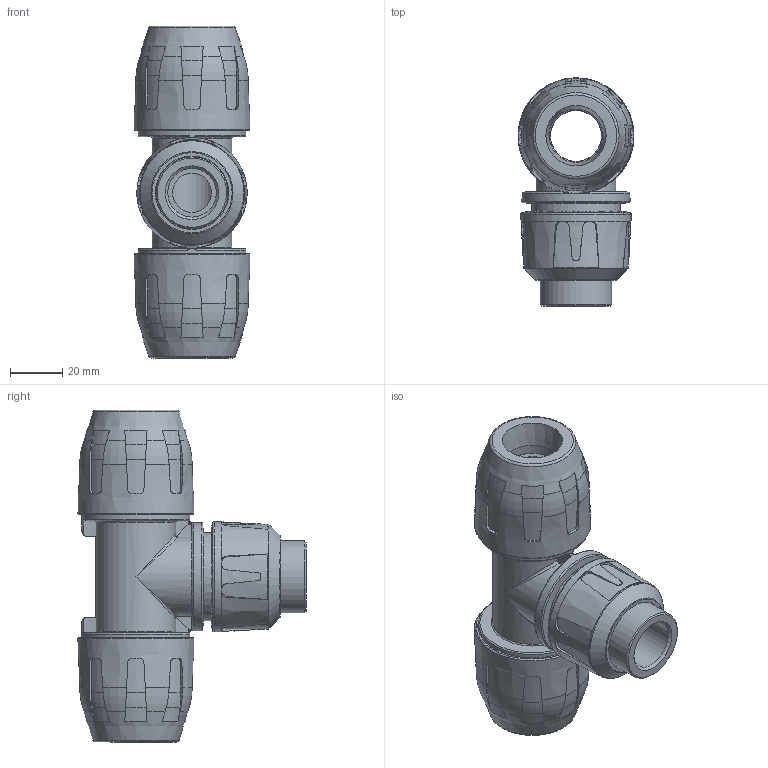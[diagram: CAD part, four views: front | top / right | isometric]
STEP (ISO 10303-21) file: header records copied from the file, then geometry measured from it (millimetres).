
FILE_DESCRIPTION( ( 'STEP AP214' ), '1' );
FILE_NAME( ' ', ' ', ( ' ' ), ( ' ' ), 'PSStep 11.0', 'VISI 17.0', ' ' );
FILE_SCHEMA( ( 'AUTOMOTIVE_DESIGN { 1 0 10303 214 1 1 1 1 }' ) );
Length unit declared in the file: millimetre
Products named in the file (5): 1; 2; 3; 4; 5
Bounding box: 44.44 x 87.4 x 127.2 mm (x, y, z)
Volume: 142667.3 mm3; surface area: 69559.2 mm2
Topology: 5 solids, 5 shells, 756 faces, 2036 edges, 1311 vertices
Faces by surface type: plane 350, cone 159, cylinder 122, bspline 94, torus 31
Full cylindrical faces by diameter (mm): 15 x1, 16 x1, 16.5 x1, 18.6 x1, 19.518 x1, 20 x1, 20.6 x4, 24.9 x2, 27.5 x1, 28.097 x1, 30.1 x1, 30.837 x1, 32.232 x2, 32.3 x2, 33.849 x1, 33.85 x1, 33.9 x2, 36.739 x2, 36.8 x2, 37.435 x2, 41.439 x3, 42 x2
Entity records: 36409 total; most frequent: CARTESIAN_POINT 12679, ORIENTED_EDGE 3844, DIRECTION 3456, EDGE_CURVE 1922, AXIS2_PLACEMENT_3D 1438, VERTEX_POINT 1270, EDGE_LOOP 862, FACE_OUTER_BOUND 808
